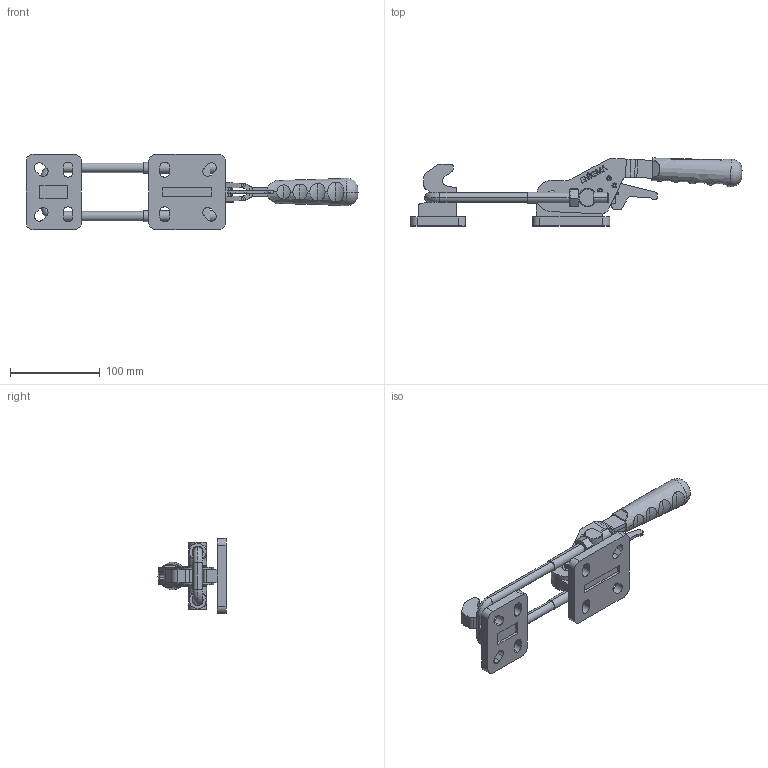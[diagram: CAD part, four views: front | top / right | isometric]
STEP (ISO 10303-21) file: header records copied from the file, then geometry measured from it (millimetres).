
FILE_DESCRIPTION (( 'STEP AP203' ), '1' );
FILE_NAME ('13512_Y_K.STEP', '2022-12-02T06:56:57', ( '' ), ( '' ), 'SwSTEP 2.0', 'SolidWorks 2023', '' );
FILE_SCHEMA (( 'CONFIG_CONTROL_DESIGN' ));
Length unit declared in the file: millimetre
Products named in the file (16): C100_T_10x20(YENİ_TUTAMAK_10x20)_Varsayılan; 1391_Kanca mili_Varsayılan; Aynalama1391_hareket kolu_sag_Varsayılan; Burc_12x8x9_Varsayılan; M12_U_Kanca_Varsayılan; 13512_Y_K; 1391_Alt Plaka; M12 Somun_Varsayılan; 1391_KarsılıkKancaTablası; cap5x15_CekmeYayı; 1391_hareket kolu_sag_Varsayılan; 1391_Govde; 1391_KarsılıkKanca; mandal 1; Pim_8x23_Varsayılan; 1351C_Pim_4x21_Varsayılan
Assembly tree (22 placements, depth 2):
  13512_Y_K
    1391_Alt Plaka
    1391_Govde
    1391_hareket kolu_sag_Varsayılan
    1391_Kanca mili_Varsayılan
    M12_U_Kanca_Varsayılan
    Aynalama1391_hareket kolu_sag_Varsayılan
    M12 Somun_Varsayılan  x2
    1391_KarsılıkKancaTablası
    Pim_8x23_Varsayılan  x2
    Burc_12x8x9_Varsayılan
    mandal 1
    1351C_Pim_4x21_Varsayılan  x6
    cap5x15_CekmeYayı
    1391_KarsılıkKanca
    C100_T_10x20(YENİ_TUTAMAK_10x20)_Varsayılan
Bounding box: 370.9 x 75.97 x 84 mm (x, y, z)
Volume: 327657.6 mm3; surface area: 125579.3 mm2
Topology: 22 solids, 22 shells, 1264 faces, 3271 edges, 2107 vertices
Faces by surface type: plane 724, cylinder 291, bspline 146, torus 66, cone 37
Entity records: 38200 total; most frequent: CARTESIAN_POINT 14482, ORIENTED_EDGE 4782, DIRECTION 4099, EDGE_CURVE 2391, VERTEX_POINT 1555, VECTOR 1485, LINE 1485, AXIS2_PLACEMENT_3D 1307
